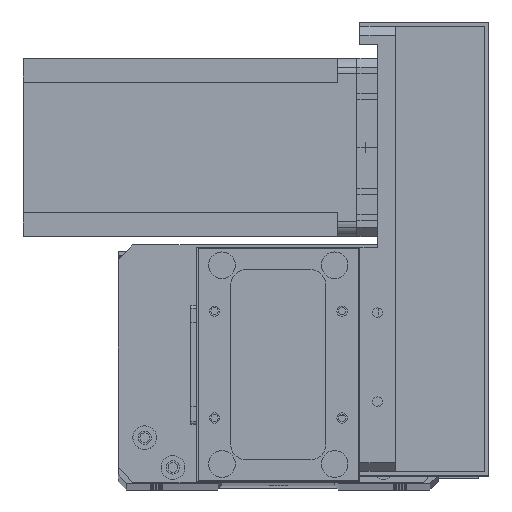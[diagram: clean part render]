
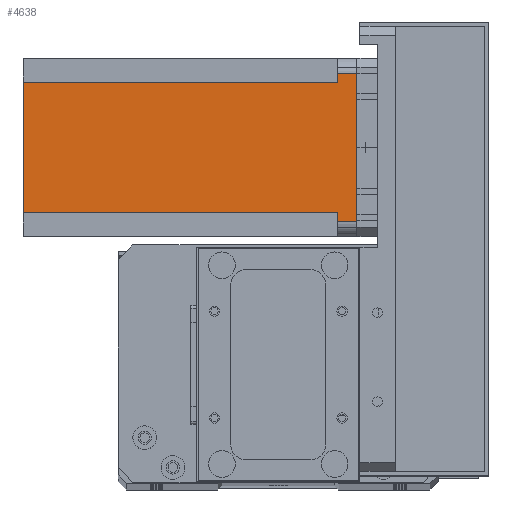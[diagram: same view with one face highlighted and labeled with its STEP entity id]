
A CAD part, top view. The second image highlights one B-rep face of the part: STEP entity #4638.
In plain terms, the highlighted planar face has unit normal (0, 0, 1) as drawn and (0, 1, 0) by its records, which use the part's own axes.
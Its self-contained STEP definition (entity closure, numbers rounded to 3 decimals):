
#484 = CARTESIAN_POINT ( 'NONE',  ( 5., 60., -6.5 ) ) ;
#1376 = CARTESIAN_POINT ( 'NONE',  ( 8., 60., -112.5 ) ) ;
#1693 = VECTOR ( 'NONE', #14358, 1000. ) ;
#2429 = LINE ( 'NONE', #21526, #1693 ) ;
#2785 = LINE ( 'NONE', #7450, #27487 ) ;
#2942 = LINE ( 'NONE', #23702, #27638 ) ;
#3025 = ORIENTED_EDGE ( 'NONE', *, *, #15433, .T. ) ;
#3141 = VERTEX_POINT ( 'NONE', #9004 ) ;
#3391 = EDGE_CURVE ( 'NONE', #9194, #22664, #20198, .T. ) ;
#3404 = DIRECTION ( 'NONE',  ( -1., 0., 0. ) ) ;
#3879 = VERTEX_POINT ( 'NONE', #484 ) ;
#4366 = DIRECTION ( 'NONE',  ( 0., 1., 0. ) ) ;
#4638 = ADVANCED_FACE ( 'NONE', ( #13470 ), #13862, .T. ) ;
#5179 = CARTESIAN_POINT ( 'NONE',  ( 8., 60., -6.5 ) ) ;
#6862 = LINE ( 'NONE', #10414, #18899 ) ;
#7450 = CARTESIAN_POINT ( 'NONE',  ( 8., 60., -6.5 ) ) ;
#7607 = DIRECTION ( 'NONE',  ( 0., 0., -1. ) ) ;
#8083 = VERTEX_POINT ( 'NONE', #20066 ) ;
#8239 = DIRECTION ( 'NONE',  ( 0., 0., 1. ) ) ;
#8995 = ORIENTED_EDGE ( 'NONE', *, *, #11121, .F. ) ;
#9004 = CARTESIAN_POINT ( 'NONE',  ( 52., 60., -112.5 ) ) ;
#9016 = EDGE_CURVE ( 'NONE', #23888, #19301, #2942, .T. ) ;
#9194 = VERTEX_POINT ( 'NONE', #5179 ) ;
#10414 = CARTESIAN_POINT ( 'NONE',  ( 52., 60., -6.5 ) ) ;
#11121 = EDGE_CURVE ( 'NONE', #3141, #8083, #2429, .T. ) ;
#11467 = CARTESIAN_POINT ( 'NONE',  ( 0., 60., -112.5 ) ) ;
#12253 = VECTOR ( 'NONE', #7607, 1000. ) ;
#12470 = CARTESIAN_POINT ( 'NONE',  ( 55., 60., -6.5 ) ) ;
#13470 = FACE_OUTER_BOUND ( 'NONE', #19696, .T. ) ;
#13690 = VECTOR ( 'NONE', #8239, 1000. ) ;
#13862 = PLANE ( 'NONE',  #28937 ) ;
#14358 = DIRECTION ( 'NONE',  ( 0., 0., 1. ) ) ;
#15328 = CARTESIAN_POINT ( 'NONE',  ( 0., 60., -112.5 ) ) ;
#15433 = EDGE_CURVE ( 'NONE', #9194, #3879, #2785, .T. ) ;
#17312 = ORIENTED_EDGE ( 'NONE', *, *, #27864, .T. ) ;
#18409 = CARTESIAN_POINT ( 'NONE',  ( 55., 60., 0. ) ) ;
#18899 = VECTOR ( 'NONE', #24821, 1000. ) ;
#19120 = ORIENTED_EDGE ( 'NONE', *, *, #29694, .F. ) ;
#19301 = VERTEX_POINT ( 'NONE', #12470 ) ;
#19571 = CARTESIAN_POINT ( 'NONE',  ( 8., 60., -112.5 ) ) ;
#19636 = ORIENTED_EDGE ( 'NONE', *, *, #28639, .F. ) ;
#19696 = EDGE_LOOP ( 'NONE', ( #19636, #29519, #19120, #8995, #21942, #21321, #3025, #17312 ) ) ;
#19699 = LINE ( 'NONE', #25525, #20470 ) ;
#20066 = CARTESIAN_POINT ( 'NONE',  ( 52., 60., -6.5 ) ) ;
#20141 = LINE ( 'NONE', #22575, #13690 ) ;
#20198 = LINE ( 'NONE', #19571, #12253 ) ;
#20470 = VECTOR ( 'NONE', #30211, 1000. ) ;
#21138 = DIRECTION ( 'NONE',  ( 0., 0., 1. ) ) ;
#21321 = ORIENTED_EDGE ( 'NONE', *, *, #3391, .F. ) ;
#21526 = CARTESIAN_POINT ( 'NONE',  ( 52., 60., -112.5 ) ) ;
#21942 = ORIENTED_EDGE ( 'NONE', *, *, #22018, .T. ) ;
#22018 = EDGE_CURVE ( 'NONE', #3141, #22664, #30283, .T. ) ;
#22575 = CARTESIAN_POINT ( 'NONE',  ( 5., 60., -112.5 ) ) ;
#22664 = VERTEX_POINT ( 'NONE', #1376 ) ;
#22874 = CARTESIAN_POINT ( 'NONE',  ( 5., 60., 0. ) ) ;
#23702 = CARTESIAN_POINT ( 'NONE',  ( 55., 60., -112.5 ) ) ;
#23830 = VERTEX_POINT ( 'NONE', #22874 ) ;
#23888 = VERTEX_POINT ( 'NONE', #18409 ) ;
#23950 = VECTOR ( 'NONE', #3404, 1000. ) ;
#24287 = DIRECTION ( 'NONE',  ( -1., 0., 0. ) ) ;
#24821 = DIRECTION ( 'NONE',  ( 1., 0., 0. ) ) ;
#25525 = CARTESIAN_POINT ( 'NONE',  ( 0., 60., 0. ) ) ;
#26118 = DIRECTION ( 'NONE',  ( 0., 0., -1. ) ) ;
#27487 = VECTOR ( 'NONE', #24287, 1000. ) ;
#27638 = VECTOR ( 'NONE', #26118, 1000. ) ;
#27864 = EDGE_CURVE ( 'NONE', #3879, #23830, #20141, .T. ) ;
#28639 = EDGE_CURVE ( 'NONE', #23888, #23830, #19699, .T. ) ;
#28937 = AXIS2_PLACEMENT_3D ( 'NONE', #11467, #4366, #21138 ) ;
#29519 = ORIENTED_EDGE ( 'NONE', *, *, #9016, .T. ) ;
#29694 = EDGE_CURVE ( 'NONE', #8083, #19301, #6862, .T. ) ;
#30211 = DIRECTION ( 'NONE',  ( -1., 0., 0. ) ) ;
#30283 = LINE ( 'NONE', #15328, #23950 ) ;
